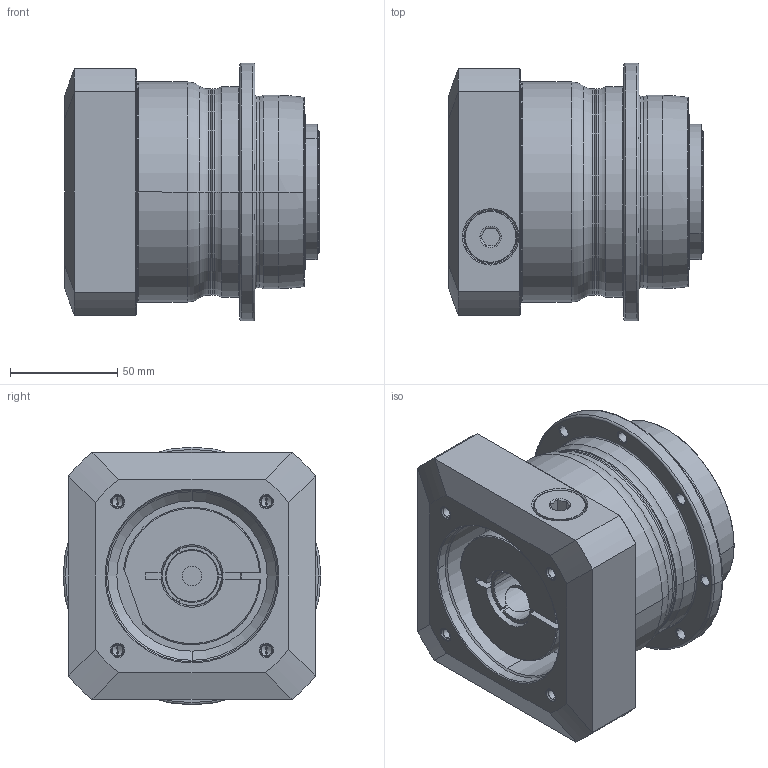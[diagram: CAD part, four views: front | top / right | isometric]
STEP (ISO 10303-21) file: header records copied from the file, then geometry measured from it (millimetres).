
FILE_DESCRIPTION((''),'2;1');
FILE_NAME('AH090_1ST_24-P0409500101_ASM','2016-07-28T',('d00435'),(''),'PRO/ENGINEER BY PARAMETRIC TECHNOLOGY CORPORATION, 2008410','PRO/ENGINEER BY PARAMETRIC TECHNOLOGY CORPORATION, 2008410','');
FILE_SCHEMA(('CONFIG_CONTROL_DESIGN'));
Length unit declared in the file: millimetre
Products named in the file (8): P0255300003; P0359300003; P1318300301; P0409500101; P0503500010; P0912303001; 21711418017; AH090_1ST_24-P0409500101_ASM
Assembly tree (7 placements, depth 2):
  AH090_1ST_24-P0409500101_ASM
    P0255300003
    P0359300003
    P1318300301
    P0409500101
    P0503500010
    P0912303001
    21711418017
Bounding box: 118.5 x 120 x 120 mm (x, y, z)
Volume: 861003.6 mm3; surface area: 170895.3 mm2
Topology: 8 solids, 32 shells, 578 faces, 1345 edges, 819 vertices
Faces by surface type: cylinder 244, cone 152, plane 114, torus 54, bspline 14
Entity records: 21289 total; most frequent: CARTESIAN_POINT 7759, DIRECTION 3087, ORIENTED_EDGE 2502, AXIS2_PLACEMENT_3D 1310, EDGE_CURVE 1299, VERTEX_POINT 819, CIRCLE 721, EDGE_LOOP 690
